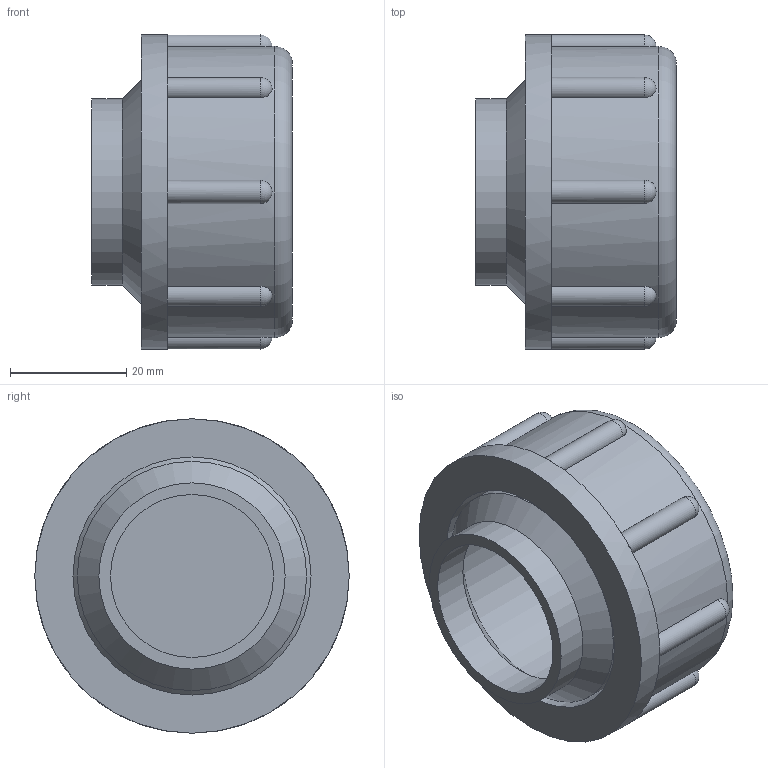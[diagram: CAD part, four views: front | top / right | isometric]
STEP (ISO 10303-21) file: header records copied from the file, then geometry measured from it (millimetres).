
FILE_DESCRIPTION(/* description */ (''),/* implementation_level */ '2;1');
FILE_NAME(/* name */ 'Z:\Geberit\Export\NewStep\Gewindest. m. Verschlk._Iassembly\stp\379750.stp',/* time_stamp */ '2014-04-03T17:41:27+02:00',/* author */ ('Marco'),/* organization */ (''),/* preprocessor_version */ 'ST-DEVELOPER v15.2',/* originating_system */ 'Autodesk Inventor 2014',/* authorisation */ '');
FILE_SCHEMA (('AUTOMOTIVE_DESIGN { 1 0 10303 214 3 1 1 }'));
Length unit declared in the file: millimetre
Products named in the file (3): 379784; 379785; 379750
Bounding box: 34.5 x 54 x 54 mm (x, y, z)
Volume: 37925.7 mm3; surface area: 19298.7 mm2
Topology: 2 solids, 2 shells, 43 faces, 112 edges, 65 vertices
Faces by surface type: cylinder 17, plane 12, sphere 8, cone 5, torus 1
Full cylindrical faces by diameter (mm): 28 x1, 32 x1, 33 x1, 39.4 x2, 40.9 x1, 44 x1, 50 x1, 54 x1
Entity records: 1447 total; most frequent: CARTESIAN_POINT 378, DIRECTION 226, ORIENTED_EDGE 178, AXIS2_PLACEMENT_3D 105, EDGE_CURVE 89, VERTEX_POINT 65, EDGE_LOOP 60, CIRCLE 57
